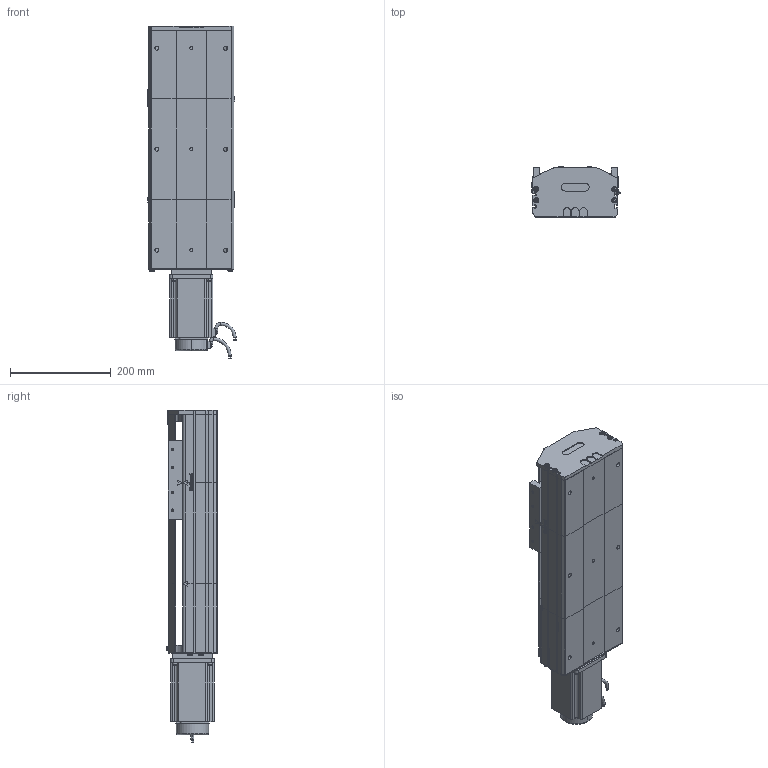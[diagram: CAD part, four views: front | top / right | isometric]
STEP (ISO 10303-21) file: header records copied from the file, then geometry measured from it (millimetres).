
FILE_DESCRIPTION (( 'STEP AP214' ), '1' );
FILE_NAME ('D17 TSH MD S200.STEP', '2010-06-29T14:40:05', ( 'Christophe Gaillard' ), ( 'SGA' ), 'SwSTEP 2.0', 'SolidWorks 2010', '' );
FILE_SCHEMA (( 'AUTOMOTIVE_DESIGN' ));
Length unit declared in the file: millimetre
Products named in the file (31): corpl head D17 MD_Default; chariot D17S_Default; codeur 90BLDC125-640; avant 90BLDC125A-640; vis M5 L5_Default; Arbre+rail head D17; Moteur motionking 90BLDC125A-640; couvercle D17 head_Default; plaque de  bout head D17_Default; Conecteur_Default; Conecteur2_Default; Vis M5 L16-2_Default; corps 90BLDC125A-640; Chariot D17; vis M5 L12_Default; guide D17; head MD_Default; vis M5 L25_Default; vis M5 L8 90°_Default; couvercle D17_Default; Arbre+rail tail D17; tete d''axe haut D17; D17 TSH MD S200; course 200 D17_Default; tete d''axe bas D17; plaque de  bout tail D17_Default; Tail D17_Default; corpl tail D17_Default; corp D17 200_Default; couvercle D17 course L200_Default; arbre + rail D17 Course 200 
Assembly tree (50 placements, depth 4):
  D17 TSH MD S200
    head MD_Default
      corpl head D17 MD_Default
      plaque de  bout head D17_Default
      couvercle D17 head_Default
      Vis M5 L16-2_Default  x4
      vis M5 L12_Default  x6
      vis M5 L5_Default  x2
      Arbre+rail head D17
      Moteur motionking 90BLDC125A-640
        avant 90BLDC125A-640
        Conecteur2_Default
        corps 90BLDC125A-640
        codeur 90BLDC125-640
        Conecteur_Default
    course 200 D17_Default
      corp D17 200_Default
      couvercle D17 course L200_Default
      arbre + rail D17 Course 200 
    Tail D17_Default
      plaque de  bout tail D17_Default
      vis M5 L8 90°_Default  x2
      vis M5 L12_Default  x4
      Arbre+rail tail D17
      tete d''axe bas D17
      vis M5 L25_Default  x2
      couvercle D17_Default
      tete d''axe haut D17
      corpl tail D17_Default
    chariot D17S_Default
      guide D17  x2
      vis M5 L12_Default  x4
      Chariot D17
Bounding box: 174.95 x 99.7 x 657.5 mm (x, y, z)
Volume: 4224894.9 mm3; surface area: 1006406.2 mm2
Topology: 75 solids, 75 shells, 2070 faces, 5205 edges, 3376 vertices
Faces by surface type: plane 1319, cylinder 502, bspline 136, torus 57, cone 56
Entity records: 69039 total; most frequent: CARTESIAN_POINT 22006, ORIENTED_EDGE 8226, DIRECTION 7622, EDGE_CURVE 4113, LINE 2926, VECTOR 2926, VERTEX_POINT 2712, AXIS2_PLACEMENT_3D 2348
